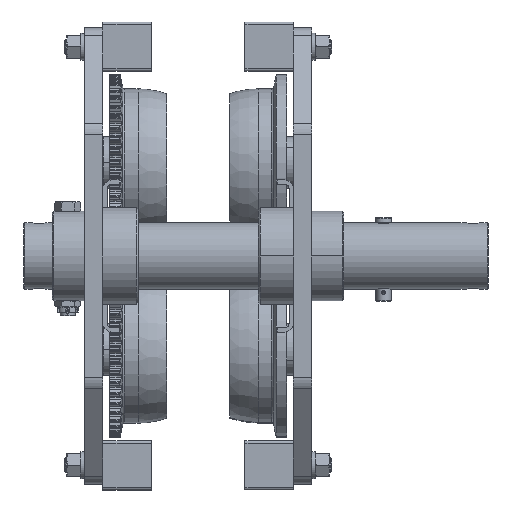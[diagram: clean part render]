
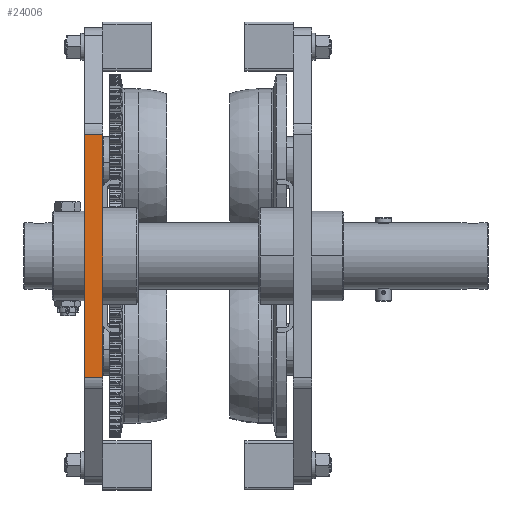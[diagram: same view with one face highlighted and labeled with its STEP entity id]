
A CAD part, front view. The second image highlights one B-rep face of the part: STEP entity #24006.
In plain terms, the highlighted planar face has unit normal (0, -1, 0).
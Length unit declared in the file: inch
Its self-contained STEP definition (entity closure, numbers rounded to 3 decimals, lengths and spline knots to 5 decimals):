
#270 = VERTEX_POINT ( 'NONE', #31692 ) ;
#1132 = FACE_OUTER_BOUND ( 'NONE', #45568, .T. ) ;
#1389 = EDGE_CURVE ( 'NONE', #49860, #53771, #31763, .T. ) ;
#2018 = EDGE_CURVE ( 'NONE', #53771, #270, #12588, .T. ) ;
#4260 = CARTESIAN_POINT ( 'NONE',  ( 5.02793, -2.83465, 0. ) ) ;
#5639 = CARTESIAN_POINT ( 'NONE',  ( -5.02793, -2.83465, 0.74803 ) ) ;
#5667 = EDGE_CURVE ( 'NONE', #49860, #11856, #13338, .T. ) ;
#9734 = CARTESIAN_POINT ( 'NONE',  ( 5.02793, -2.83465, 0.74803 ) ) ;
#11856 = VERTEX_POINT ( 'NONE', #19494 ) ;
#12588 = LINE ( 'NONE', #4260, #29243 ) ;
#13338 = LINE ( 'NONE', #9734, #49502 ) ;
#13372 = CARTESIAN_POINT ( 'NONE',  ( 5.02793, -2.83465, 0.74803 ) ) ;
#14145 = AXIS2_PLACEMENT_3D ( 'NONE', #13372, #25904, #42912 ) ;
#15825 = EDGE_CURVE ( 'NONE', #11856, #270, #35206, .T. ) ;
#17731 = ORIENTED_EDGE ( 'NONE', *, *, #2018, .T. ) ;
#19494 = CARTESIAN_POINT ( 'NONE',  ( 5.02793, -2.83465, 0.74803 ) ) ;
#21470 = ORIENTED_EDGE ( 'NONE', *, *, #5667, .F. ) ;
#21559 = ORIENTED_EDGE ( 'NONE', *, *, #15825, .F. ) ;
#22024 = PLANE ( 'NONE',  #14145 ) ;
#24006 = ADVANCED_FACE ( 'NONE', ( #1132 ), #22024, .F. ) ;
#25904 = DIRECTION ( 'NONE',  ( 0., 1., 0. ) ) ;
#26520 = CARTESIAN_POINT ( 'NONE',  ( -5.02793, -2.83465, 0. ) ) ;
#26575 = CARTESIAN_POINT ( 'NONE',  ( 5.02793, -2.83465, 0.74803 ) ) ;
#28163 = VECTOR ( 'NONE', #52976, 39.37008 ) ;
#29243 = VECTOR ( 'NONE', #34037, 39.37008 ) ;
#31692 = CARTESIAN_POINT ( 'NONE',  ( 5.02793, -2.83465, 0. ) ) ;
#31763 = LINE ( 'NONE', #5639, #28163 ) ;
#34037 = DIRECTION ( 'NONE',  ( 1., 0., 0. ) ) ;
#35206 = LINE ( 'NONE', #26575, #36223 ) ;
#35754 = DIRECTION ( 'NONE',  ( 0., 0., -1. ) ) ;
#36223 = VECTOR ( 'NONE', #35754, 39.37008 ) ;
#42912 = DIRECTION ( 'NONE',  ( 0., 0., 1. ) ) ;
#43158 = DIRECTION ( 'NONE',  ( 1., 0., 0. ) ) ;
#43307 = ORIENTED_EDGE ( 'NONE', *, *, #1389, .T. ) ;
#45568 = EDGE_LOOP ( 'NONE', ( #17731, #21559, #21470, #43307 ) ) ;
#45775 = CARTESIAN_POINT ( 'NONE',  ( -5.02793, -2.83465, 0.74803 ) ) ;
#49502 = VECTOR ( 'NONE', #43158, 39.37008 ) ;
#49860 = VERTEX_POINT ( 'NONE', #45775 ) ;
#52976 = DIRECTION ( 'NONE',  ( 0., 0., -1. ) ) ;
#53771 = VERTEX_POINT ( 'NONE', #26520 ) ;
